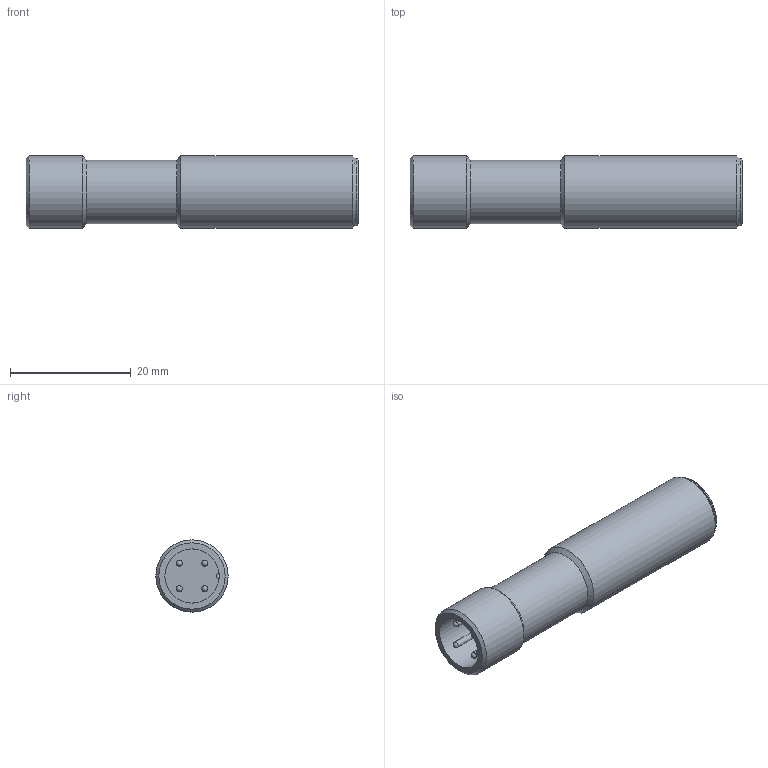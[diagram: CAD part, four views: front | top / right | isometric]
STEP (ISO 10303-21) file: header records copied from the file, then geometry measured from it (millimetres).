
FILE_DESCRIPTION((''),'2;1');
FILE_NAME('J:\Projekte\Kunststoff-Blechteile\Zeichnungen\Bibliothek Inventor\3D Solids\nano\STP\nano-24\nano-24_CD.stp','2013-05-06T09:33:06',('Oliver Liedtke'),(''),'Autodesk Inventor 2013','Autodesk Inventor 2013','');
FILE_SCHEMA(('AUTOMOTIVE_DESIGN { 1 0 10303 214 1 1 1 1 }'));
Length unit declared in the file: millimetre
Products named in the file (1): nano-24_CD
Bounding box: 55.1 x 12 x 12 mm (x, y, z)
Volume: 5341 mm3; surface area: 2544.3 mm2
Topology: 1 solids, 1 shells, 27 faces, 58 edges, 32 vertices
Faces by surface type: cylinder 12, plane 6, sphere 4, cone 4, torus 1
Full cylindrical faces by diameter (mm): 1 x4, 7.8 x1, 9 x1, 9.5 x1, 10.6 x1, 11.2 x1, 12 x2
Entity records: 649 total; most frequent: DIRECTION 112, CARTESIAN_POINT 84, ORIENTED_EDGE 58, AXIS2_PLACEMENT_3D 55, EDGE_LOOP 50, EDGE_CURVE 29, STYLED_ITEM 28, VERTEX_POINT 27
